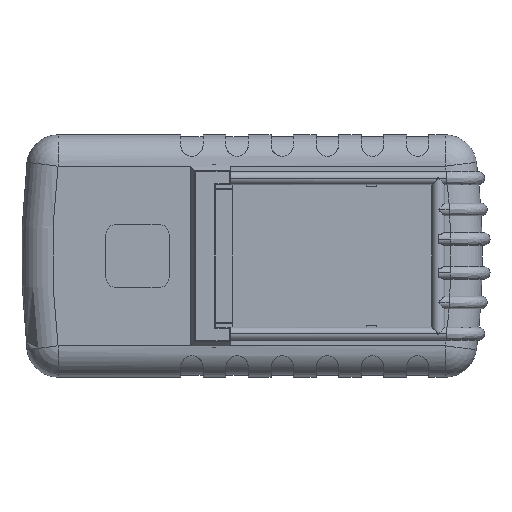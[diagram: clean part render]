
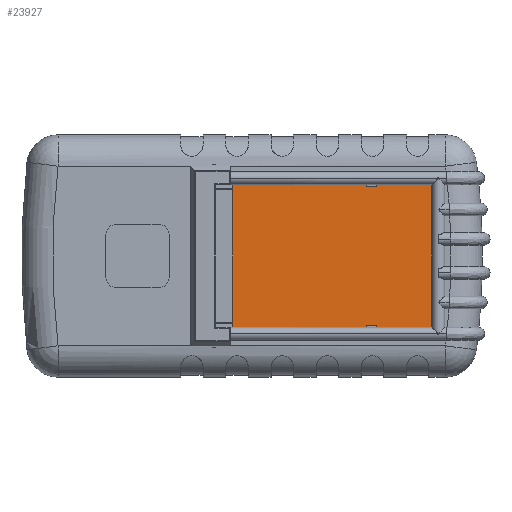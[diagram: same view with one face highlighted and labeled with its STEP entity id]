
A CAD part, front view. The second image highlights one B-rep face of the part: STEP entity #23927.
In plain terms, the highlighted planar face has unit normal (0, -1, 0).
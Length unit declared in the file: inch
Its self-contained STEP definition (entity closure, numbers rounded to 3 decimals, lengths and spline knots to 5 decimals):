
#193 = LINE ( 'NONE', #19515, #32607 ) ;
#616 = CARTESIAN_POINT ( 'NONE',  ( -0.35584, 0.08, -1.3435 ) ) ;
#973 = VERTEX_POINT ( 'NONE', #41922 ) ;
#1482 = EDGE_CURVE ( 'NONE', #21430, #38049, #20444, .T. ) ;
#2635 = LINE ( 'NONE', #7544, #34045 ) ;
#2674 = EDGE_CURVE ( 'NONE', #35864, #973, #13260, .T. ) ;
#2704 = ORIENTED_EDGE ( 'NONE', *, *, #12984, .T. ) ;
#2996 = LINE ( 'NONE', #616, #10601 ) ;
#3447 = LINE ( 'NONE', #26009, #4464 ) ;
#3638 = VECTOR ( 'NONE', #33940, 39.37008 ) ;
#4255 = CARTESIAN_POINT ( 'NONE',  ( 2.15422, 0.08, 1.31062 ) ) ;
#4464 = VECTOR ( 'NONE', #6638, 39.37008 ) ;
#5391 = ORIENTED_EDGE ( 'NONE', *, *, #26739, .T. ) ;
#5810 = CARTESIAN_POINT ( 'NONE',  ( 2.35422, 0.08, 0. ) ) ;
#6003 = LINE ( 'NONE', #6954, #30808 ) ;
#6638 = DIRECTION ( 'NONE',  ( -1., 0., 0. ) ) ;
#6762 = DIRECTION ( 'NONE',  ( 1., 0., 0. ) ) ;
#6835 = ORIENTED_EDGE ( 'NONE', *, *, #25311, .F. ) ;
#6901 = PLANE ( 'NONE',  #31967 ) ;
#6954 = CARTESIAN_POINT ( 'NONE',  ( 3.39416, 0.08, 1.3435 ) ) ;
#7107 = EDGE_CURVE ( 'NONE', #20735, #20051, #35987, .T. ) ;
#7544 = CARTESIAN_POINT ( 'NONE',  ( 3.39416, 0.08, -1.3435 ) ) ;
#7714 = CARTESIAN_POINT ( 'NONE',  ( 3.39416, 0.08, -1.3435 ) ) ;
#9148 = VERTEX_POINT ( 'NONE', #25203 ) ;
#10176 = DIRECTION ( 'NONE',  ( 0., 0., -1. ) ) ;
#10228 = DIRECTION ( 'NONE',  ( -1., 0., 0. ) ) ;
#10558 = DIRECTION ( 'NONE',  ( -1., 0., 0. ) ) ;
#10601 = VECTOR ( 'NONE', #13906, 39.37008 ) ;
#12869 = VECTOR ( 'NONE', #19344, 39.37008 ) ;
#12984 = EDGE_CURVE ( 'NONE', #33293, #35864, #2635, .T. ) ;
#13260 = LINE ( 'NONE', #30646, #3638 ) ;
#13906 = DIRECTION ( 'NONE',  ( 1., 0., 0. ) ) ;
#13943 = ORIENTED_EDGE ( 'NONE', *, *, #1482, .F. ) ;
#14203 = DIRECTION ( 'NONE',  ( 0., 0., 1. ) ) ;
#14983 = CARTESIAN_POINT ( 'NONE',  ( 2.35422, 0.08, -1.31062 ) ) ;
#16523 = CARTESIAN_POINT ( 'NONE',  ( 0., 0.08, 0. ) ) ;
#16895 = CARTESIAN_POINT ( 'NONE',  ( 0., 0.08, 1.31062 ) ) ;
#18215 = CARTESIAN_POINT ( 'NONE',  ( -0.35584, 0.08, 1.3435 ) ) ;
#19344 = DIRECTION ( 'NONE',  ( 0., 0., -1. ) ) ;
#19393 = CARTESIAN_POINT ( 'NONE',  ( 2.15422, 0.08, -1.31062 ) ) ;
#19394 = CARTESIAN_POINT ( 'NONE',  ( 2.35422, 0.08, 0. ) ) ;
#19515 = CARTESIAN_POINT ( 'NONE',  ( -0.35584, 0.08, -1.3435 ) ) ;
#19577 = EDGE_CURVE ( 'NONE', #24147, #21430, #3447, .T. ) ;
#20051 = VERTEX_POINT ( 'NONE', #39052 ) ;
#20294 = DIRECTION ( 'NONE',  ( 0., 0., 1. ) ) ;
#20444 = LINE ( 'NONE', #42032, #12869 ) ;
#20735 = VERTEX_POINT ( 'NONE', #4255 ) ;
#21099 = VECTOR ( 'NONE', #28455, 39.37008 ) ;
#21430 = VERTEX_POINT ( 'NONE', #19393 ) ;
#21643 = ORIENTED_EDGE ( 'NONE', *, *, #23020, .T. ) ;
#21706 = ORIENTED_EDGE ( 'NONE', *, *, #2674, .T. ) ;
#22256 = VERTEX_POINT ( 'NONE', #18215 ) ;
#23020 = EDGE_CURVE ( 'NONE', #22256, #39959, #39488, .T. ) ;
#23910 = CARTESIAN_POINT ( 'NONE',  ( 2.15422, 0.08, 0. ) ) ;
#23927 = ADVANCED_FACE ( 'NONE', ( #33375 ), #6901, .T. ) ;
#24000 = CARTESIAN_POINT ( 'NONE',  ( 2.35422, 0.08, 1.31062 ) ) ;
#24147 = VERTEX_POINT ( 'NONE', #14983 ) ;
#24403 = CARTESIAN_POINT ( 'NONE',  ( -0.35584, 0.08, -1.3435 ) ) ;
#24507 = EDGE_CURVE ( 'NONE', #25745, #20735, #29260, .T. ) ;
#25203 = CARTESIAN_POINT ( 'NONE',  ( 2.35422, 0.08, -1.3435 ) ) ;
#25311 = EDGE_CURVE ( 'NONE', #9148, #24147, #36322, .T. ) ;
#25745 = VERTEX_POINT ( 'NONE', #24000 ) ;
#26009 = CARTESIAN_POINT ( 'NONE',  ( 0., 0.08, -1.31062 ) ) ;
#26304 = VECTOR ( 'NONE', #14203, 39.37008 ) ;
#26739 = EDGE_CURVE ( 'NONE', #973, #25745, #30597, .T. ) ;
#27454 = EDGE_LOOP ( 'NONE', ( #38039, #28414, #40882, #21643, #31170, #13943, #40463, #6835, #30420, #2704, #21706, #5391 ) ) ;
#27923 = EDGE_CURVE ( 'NONE', #20051, #22256, #6003, .T. ) ;
#28414 = ORIENTED_EDGE ( 'NONE', *, *, #7107, .T. ) ;
#28455 = DIRECTION ( 'NONE',  ( 0., 0., 1. ) ) ;
#28573 = VECTOR ( 'NONE', #38806, 39.37008 ) ;
#29260 = LINE ( 'NONE', #16895, #35873 ) ;
#29545 = DIRECTION ( 'NONE',  ( 0., -1., 0. ) ) ;
#29707 = CARTESIAN_POINT ( 'NONE',  ( -0.35584, 0.08, 1.3435 ) ) ;
#30420 = ORIENTED_EDGE ( 'NONE', *, *, #39117, .T. ) ;
#30597 = LINE ( 'NONE', #19394, #28573 ) ;
#30646 = CARTESIAN_POINT ( 'NONE',  ( 3.39416, 0.08, 1.3435 ) ) ;
#30808 = VECTOR ( 'NONE', #10228, 39.37008 ) ;
#31170 = ORIENTED_EDGE ( 'NONE', *, *, #36266, .T. ) ;
#31967 = AXIS2_PLACEMENT_3D ( 'NONE', #16523, #29545, #10176 ) ;
#32607 = VECTOR ( 'NONE', #6762, 39.37008 ) ;
#33293 = VERTEX_POINT ( 'NONE', #7714 ) ;
#33375 = FACE_OUTER_BOUND ( 'NONE', #27454, .T. ) ;
#33545 = CARTESIAN_POINT ( 'NONE',  ( 2.15422, 0.08, -1.3435 ) ) ;
#33940 = DIRECTION ( 'NONE',  ( -1., 0., 0. ) ) ;
#34045 = VECTOR ( 'NONE', #20294, 39.37008 ) ;
#35864 = VERTEX_POINT ( 'NONE', #36143 ) ;
#35873 = VECTOR ( 'NONE', #10558, 39.37008 ) ;
#35987 = LINE ( 'NONE', #23910, #26304 ) ;
#36143 = CARTESIAN_POINT ( 'NONE',  ( 3.39416, 0.08, 1.3435 ) ) ;
#36266 = EDGE_CURVE ( 'NONE', #39959, #38049, #193, .T. ) ;
#36322 = LINE ( 'NONE', #5810, #21099 ) ;
#38039 = ORIENTED_EDGE ( 'NONE', *, *, #24507, .T. ) ;
#38049 = VERTEX_POINT ( 'NONE', #33545 ) ;
#38477 = VECTOR ( 'NONE', #39097, 39.37008 ) ;
#38806 = DIRECTION ( 'NONE',  ( 0., 0., -1. ) ) ;
#39052 = CARTESIAN_POINT ( 'NONE',  ( 2.15422, 0.08, 1.3435 ) ) ;
#39097 = DIRECTION ( 'NONE',  ( 0., 0., -1. ) ) ;
#39117 = EDGE_CURVE ( 'NONE', #9148, #33293, #2996, .T. ) ;
#39488 = LINE ( 'NONE', #29707, #38477 ) ;
#39959 = VERTEX_POINT ( 'NONE', #24403 ) ;
#40463 = ORIENTED_EDGE ( 'NONE', *, *, #19577, .F. ) ;
#40882 = ORIENTED_EDGE ( 'NONE', *, *, #27923, .T. ) ;
#41922 = CARTESIAN_POINT ( 'NONE',  ( 2.35422, 0.08, 1.3435 ) ) ;
#42032 = CARTESIAN_POINT ( 'NONE',  ( 2.15422, 0.08, 0. ) ) ;
